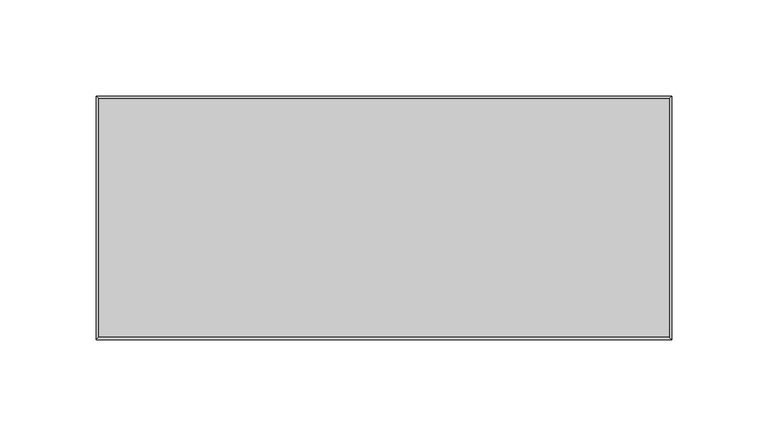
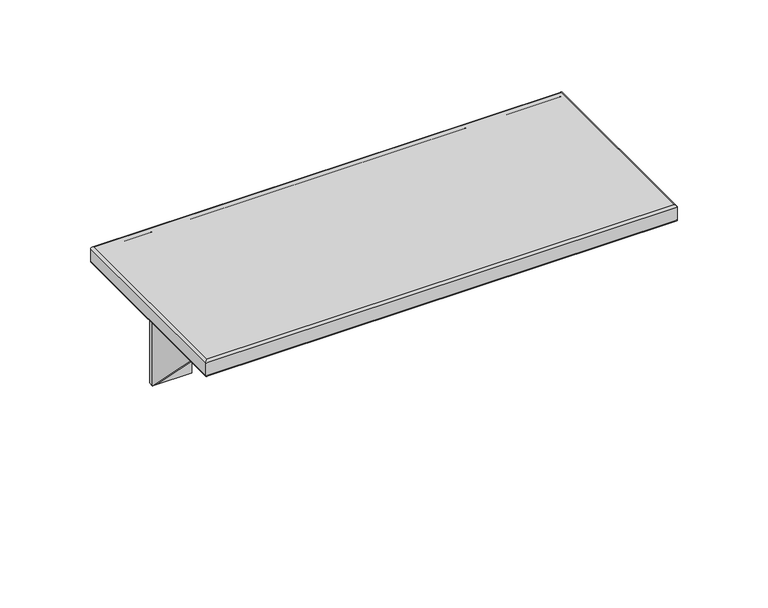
"""IFC4 building model written with IfcOpenShell, lengths in millimetres: proxy geometry, Shelf_Metlam_Utility : 300w x 127d x 105h (ML950_12)."""

from ifc_helpers import new_model, si_unit, frame, origin, place, context, project, spatial, polyline, circle_curve, ellipse_curve, outline, extrude, source, transform, mapped, element, save
from ifc_brep_helpers import plane_surface, cylinder_surface, revolved_surface, advanced_brep


def specialty_equipment_3d88ecde(model_context):
    return source(origin(), model_context, "Body", "SolidModel", [
        extrude(outline(polyline([(-3.0, 1195.0), (-102.0, 1295.0), (-3.0, 1295.0), (-3.0, 1195.0)])), frame((-112.5, 0.0, 0.0), z_axis=(1.0, 0.0, 0.0), x_axis=(0.0, 1.0, 0.0)), (0.0, 0.0, 1.0), 3.0),
        extrude(outline(polyline([(-3.0, 1195.0), (-102.0, 1295.0), (-3.0, 1295.0), (-3.0, 1195.0)])), frame((109.5, 0.0, 0.0), z_axis=(1.0, 0.0, 0.0), x_axis=(0.0, 1.0, 0.0)), (0.0, 0.0, 1.0), 3.0),
        advanced_brep(
        [(148.5, -125.5, 1300.0), (148.5, -1.5, 1300.0), (-148.5, -1.5, 1300.0), (-148.5, -125.5, 1300.0), (147.5, -2.5, 1298.0), (147.5, -124.5, 1298.0), (-147.5, -124.5, 1298.0), (-147.5, -2.5, 1298.0), (-112.5, -2.5, 1298.0), (-112.5, -103.0, 1298.0), (-87.5, -103.0, 1298.0), (-87.5, -2.5, 1298.0), (87.5, -2.5, 1298.0), (87.5, -103.0, 1298.0), (112.5, -103.0, 1298.0), (112.5, -2.5, 1298.0), (148.0, -2.0, 1290.0), (150.0, 0.0, 1290.0), (150.0, -127.0, 1290.0), (148.0, -125.0, 1290.0), (148.0, -125.0, 1297.5), (148.0, -2.0, 1297.5), (150.0, 0.0, 1298.5), (150.0, -127.0, 1298.5), (-150.0, -127.0, 1290.0), (-148.0, -125.0, 1290.0), (-148.0, -125.0, 1297.5), (-150.0, -127.0, 1298.5), (-150.0, 0.0, 1290.0), (-148.0, -2.0, 1290.0), (-148.0, -2.0, 1297.5), (-150.0, 0.0, 1298.5), (112.5, -2.0, 1290.0), (112.5, 0.0, 1290.0), (-112.5, 0.0, 1290.0), (-112.5, -2.0, 1290.0), (-87.5, 0.0, 1290.0), (87.5, 0.0, 1290.0), (87.5, -2.0, 1290.0), (-87.5, -2.0, 1290.0), (112.5, -2.0, 1297.5), (-112.5, -2.0, 1297.5), (-87.5, -2.0, 1297.5), (87.5, -2.0, 1297.5), (112.5, 0.0, 1195.0), (87.5, 0.0, 1195.0), (-87.5, 0.0, 1195.0), (-112.5, 0.0, 1195.0), (-103.5, 0.0, 1271.5), (-96.5, 0.0, 1271.5), (-103.5, 0.0, 1223.5), (-96.5, 0.0, 1223.5), (96.5, 0.0, 1271.5), (103.5, 0.0, 1271.5), (96.5, 0.0, 1223.5), (103.5, 0.0, 1223.5), (-112.5, -3.0, 1195.0), (-87.5, -3.0, 1195.0), (-87.5, -3.0, 1295.0), (-112.5, -3.0, 1295.0), (-103.5, -3.0, 1271.5), (-96.5, -3.0, 1271.5), (-103.5, -3.0, 1223.5), (-96.5, -3.0, 1223.5), (87.5, -3.0, 1195.0), (112.5, -3.0, 1195.0), (112.5, -3.0, 1295.0), (87.5, -3.0, 1295.0), (96.5, -3.0, 1271.5), (103.5, -3.0, 1271.5), (96.5, -3.0, 1223.5), (103.5, -3.0, 1223.5), (-87.5, -103.0, 1295.0), (-112.5, -103.0, 1295.0), (112.5, -103.0, 1295.0), (87.5, -103.0, 1295.0)],
        [
            (0, 1),
            (1, 2),
            (2, 3),
            (3, 0),
            (4, 5),
            (5, 6),
            (6, 7),
            (7, 8),
            (8, 9),
            (9, 10),
            (10, 11),
            (11, 12),
            (12, 13),
            (13, 14),
            (14, 15),
            (15, 4),
            (16, 17, ellipse_curve(frame((149.0, -1.0, 1290.0), z_axis=(0.7071067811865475, -0.7071067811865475, 0.0), x_axis=(0.7071067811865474, 0.7071067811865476, 0.0)), 1.4142136, 1.0)),
            (17, 18),
            (18, 19, ellipse_curve(frame((149.0, -126.0, 1290.0), z_axis=(0.7071067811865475, 0.7071067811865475, 0.0), x_axis=(-0.7071067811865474, 0.7071067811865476, 0.0)), 1.4142136, 1.0)),
            (19, 16),
            (19, 20),
            (20, 21),
            (21, 16),
            (20, 5, ellipse_curve(frame((147.5, -124.5, 1297.5), z_axis=(-0.7071067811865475, -0.7071067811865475, 0.0), x_axis=(0.7071067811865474, -0.7071067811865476, 0.0)), 0.7071068, 0.5)),
            (4, 21, ellipse_curve(frame((147.5, -2.5, 1297.5), z_axis=(-0.7071067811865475, 0.7071067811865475, 0.0), x_axis=(-0.7071067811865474, -0.7071067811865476, 0.0)), 0.7071068, 0.5)),
            (22, 1, ellipse_curve(frame((148.5, -1.5, 1298.5), z_axis=(0.7071067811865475, -0.7071067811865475, 0.0), x_axis=(0.7071067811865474, 0.7071067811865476, 0.0)), 2.1213203, 1.5)),
            (0, 23, ellipse_curve(frame((148.5, -125.5, 1298.5), z_axis=(0.7071067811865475, 0.7071067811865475, 0.0), x_axis=(-0.7071067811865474, 0.7071067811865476, 0.0)), 2.1213203, 1.5)),
            (23, 22),
            (17, 22),
            (23, 18),
            (18, 24),
            (24, 25, ellipse_curve(frame((-149.0, -126.0, 1290.0), z_axis=(0.7071067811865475, -0.7071067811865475, 0.0), x_axis=(0.7071067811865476, 0.7071067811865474, 0.0)), 1.4142136, 1.0)),
            (25, 19),
            (25, 26),
            (26, 20),
            (26, 6, ellipse_curve(frame((-147.5, -124.5, 1297.5), z_axis=(-0.7071067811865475, 0.7071067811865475, 0.0), x_axis=(-0.7071067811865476, -0.7071067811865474, 0.0)), 0.7071068, 0.5)),
            (3, 27, ellipse_curve(frame((-148.5, -125.5, 1298.5), z_axis=(0.7071067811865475, -0.7071067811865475, 0.0), x_axis=(0.7071067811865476, 0.7071067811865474, 0.0)), 2.1213203, 1.5)),
            (27, 23),
            (27, 24),
            (24, 28),
            (28, 29, ellipse_curve(frame((-149.0, -1.0, 1290.0), z_axis=(-0.7071067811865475, -0.7071067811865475, 0.0), x_axis=(0.7071067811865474, -0.7071067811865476, 0.0)), 1.4142136, 1.0)),
            (29, 25),
            (29, 30),
            (30, 26),
            (30, 7, ellipse_curve(frame((-147.5, -2.5, 1297.5), z_axis=(0.7071067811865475, 0.7071067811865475, 0.0), x_axis=(-0.7071067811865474, 0.7071067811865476, 0.0)), 0.7071068, 0.5)),
            (2, 31, ellipse_curve(frame((-148.5, -1.5, 1298.5), z_axis=(-0.7071067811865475, -0.7071067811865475, 0.0), x_axis=(0.7071067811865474, -0.7071067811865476, 0.0)), 2.1213203, 1.5)),
            (31, 27),
            (31, 28),
            (16, 32),
            (32, 33, circle_curve(frame((112.5, -1.0, 1290.0), z_axis=(1.0, 0.0, 0.0), x_axis=(0.0, 1.0, 0.0)), 1.0)),
            (33, 17),
            (28, 34),
            (34, 35, circle_curve(frame((-112.5, -1.0, 1290.0), z_axis=(-1.0, 0.0, 0.0), x_axis=(0.0, 1.0, 0.0)), 1.0)),
            (35, 29),
            (36, 37),
            (37, 38, circle_curve(frame((87.5, -1.0, 1290.0), z_axis=(-1.0, 0.0, 0.0), x_axis=(0.0, 1.0, 0.0)), 1.0)),
            (38, 39),
            (39, 36, circle_curve(frame((-87.5, -1.0, 1290.0), z_axis=(1.0, 0.0, 0.0), x_axis=(0.0, 1.0, 0.0)), 1.0)),
            (21, 40),
            (40, 32),
            (35, 41),
            (41, 30),
            (42, 39),
            (38, 43),
            (43, 42),
            (11, 42, circle_curve(frame((-87.5, -2.5, 1297.5), z_axis=(-1.0, 0.0, 0.0), x_axis=(0.0, 1.0, 0.0)), 0.5)),
            (43, 12, circle_curve(frame((87.5, -2.5, 1297.5), z_axis=(1.0, 0.0, 0.0), x_axis=(0.0, 1.0, 0.0)), 0.5)),
            (15, 40, circle_curve(frame((112.5, -2.5, 1297.5), z_axis=(-1.0, 0.0, 0.0), x_axis=(0.0, 1.0, 0.0)), 0.5)),
            (41, 8, circle_curve(frame((-112.5, -2.5, 1297.5), z_axis=(1.0, 0.0, 0.0), x_axis=(0.0, 1.0, 0.0)), 0.5)),
            (22, 31),
            (33, 44),
            (44, 45),
            (45, 37),
            (36, 46),
            (46, 47),
            (47, 34),
            (48, 49, circle_curve(frame((-100.0, 0.0, 1271.5), z_axis=(0.0, -1.0, 0.0), x_axis=(1.0, 0.0, 0.0)), 3.5)),
            (49, 48, circle_curve(frame((-100.0, 0.0, 1271.5), z_axis=(0.0, -1.0, 0.0), x_axis=(1.0, 0.0, 0.0)), 3.5)),
            (50, 51, circle_curve(frame((-100.0, 0.0, 1223.5), z_axis=(0.0, -1.0, 0.0), x_axis=(1.0, 0.0, 0.0)), 3.5)),
            (51, 50, circle_curve(frame((-100.0, 0.0, 1223.5), z_axis=(0.0, -1.0, 0.0), x_axis=(1.0, 0.0, 0.0)), 3.5)),
            (52, 53, circle_curve(frame((100.0, 0.0, 1271.5), z_axis=(0.0, -1.0, 0.0), x_axis=(1.0, 0.0, 0.0)), 3.5)),
            (53, 52, circle_curve(frame((100.0, 0.0, 1271.5), z_axis=(0.0, -1.0, 0.0), x_axis=(1.0, 0.0, 0.0)), 3.5)),
            (54, 55, circle_curve(frame((100.0, 0.0, 1223.5), z_axis=(0.0, -1.0, 0.0), x_axis=(1.0, 0.0, 0.0)), 3.5)),
            (55, 54, circle_curve(frame((100.0, 0.0, 1223.5), z_axis=(0.0, -1.0, 0.0), x_axis=(1.0, 0.0, 0.0)), 3.5)),
            (56, 57),
            (57, 58),
            (58, 59),
            (59, 56),
            (60, 61, circle_curve(frame((-100.0, -3.0, 1271.5), z_axis=(0.0, 1.0, 0.0), x_axis=(1.0, 0.0, 0.0)), 3.5)),
            (61, 60, circle_curve(frame((-100.0, -3.0, 1271.5), z_axis=(0.0, 1.0, 0.0), x_axis=(1.0, 0.0, 0.0)), 3.5)),
            (62, 63, circle_curve(frame((-100.0, -3.0, 1223.5), z_axis=(0.0, 1.0, 0.0), x_axis=(1.0, 0.0, 0.0)), 3.5)),
            (63, 62, circle_curve(frame((-100.0, -3.0, 1223.5), z_axis=(0.0, 1.0, 0.0), x_axis=(1.0, 0.0, 0.0)), 3.5)),
            (64, 65),
            (65, 66),
            (66, 67),
            (67, 64),
            (68, 69, circle_curve(frame((100.0, -3.0, 1271.5), z_axis=(0.0, 1.0, 0.0), x_axis=(1.0, 0.0, 0.0)), 3.5)),
            (69, 68, circle_curve(frame((100.0, -3.0, 1271.5), z_axis=(0.0, 1.0, 0.0), x_axis=(1.0, 0.0, 0.0)), 3.5)),
            (70, 71, circle_curve(frame((100.0, -3.0, 1223.5), z_axis=(0.0, 1.0, 0.0), x_axis=(1.0, 0.0, 0.0)), 3.5)),
            (71, 70, circle_curve(frame((100.0, -3.0, 1223.5), z_axis=(0.0, 1.0, 0.0), x_axis=(1.0, 0.0, 0.0)), 3.5)),
            (57, 46),
            (10, 72),
            (72, 58),
            (47, 56),
            (59, 73),
            (73, 9),
            (64, 45),
            (44, 65),
            (14, 74),
            (74, 66),
            (67, 75),
            (75, 13),
            (60, 48),
            (49, 61),
            (62, 50),
            (51, 63),
            (68, 52),
            (53, 69),
            (70, 54),
            (55, 71),
            (73, 72),
            (75, 74),
        ],
        [
            plane_surface(frame((-141.5355828, -8.4644172, 1300.0), z_axis=(0.0, 0.0, 1.0), x_axis=(-1.0, 0.0, 0.0))),
            plane_surface(frame((-141.5355828, -8.4644172, 1298.0), z_axis=(0.0, 0.0, -1.0), x_axis=(1.0, 0.0, 0.0))),
            cylinder_surface(frame((149.0, 0.0, 1290.0), z_axis=(0.0, 1.0, 0.0), x_axis=(1.0, 0.0, 0.0)), 1.0),
            plane_surface(frame((148.0, -2.0, 1290.0), z_axis=(-1.0, 0.0, 0.0), x_axis=(0.0, -1.0, 0.0))),
            revolved_surface(polyline([(148.0, -125.00000001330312, 1297.5), (148.0, -1.99999998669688, 1297.5)]), (147.5, 0.0, 1297.5), (0.0, -1.0, 0.0)),
            cylinder_surface(frame((148.5, 0.0, 1298.5), z_axis=(0.0, 1.0, 0.0), x_axis=(1.0, 0.0, 0.0)), 1.5),
            plane_surface(frame((150.0, 0.0, 1298.5), z_axis=(1.0, 0.0, 0.0), x_axis=(0.0, -1.0, 0.0))),
            cylinder_surface(frame((150.0, -126.0, 1290.0), z_axis=(1.0, 0.0, 0.0), x_axis=(0.0, -1.0, 0.0)), 1.0),
            plane_surface(frame((148.0, -125.0, 1290.0), z_axis=(0.0, 1.0, 0.0), x_axis=(-1.0, 0.0, 0.0))),
            revolved_surface(polyline([(-148.00000001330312, -125.0, 1297.5), (148.00000001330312, -125.0, 1297.5)]), (150.0, -124.5, 1297.5), (-1.0, 0.0, 0.0)),
            cylinder_surface(frame((150.0, -125.5, 1298.5), z_axis=(1.0, 0.0, 0.0), x_axis=(0.0, -1.0, 0.0)), 1.5),
            plane_surface(frame((150.0, -127.0, 1298.5), z_axis=(0.0, -1.0, 0.0), x_axis=(-1.0, 0.0, 0.0))),
            cylinder_surface(frame((-149.0, -127.0, 1290.0), z_axis=(0.0, -1.0, 0.0), x_axis=(-1.0, 0.0, 0.0)), 1.0),
            plane_surface(frame((-148.0, -125.0, 1290.0), z_axis=(1.0, 0.0, 0.0), x_axis=(0.0, 1.0, 0.0))),
            revolved_surface(polyline([(-148.0, -1.9999999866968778, 1297.5), (-148.0, -125.00000001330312, 1297.5)]), (-147.5, -127.0, 1297.5), (0.0, 1.0, 0.0)),
            cylinder_surface(frame((-148.5, -127.0, 1298.5), z_axis=(0.0, -1.0, 0.0), x_axis=(-1.0, 0.0, 0.0)), 1.5),
            plane_surface(frame((-150.0, -127.0, 1298.5), z_axis=(-1.0, 0.0, 0.0), x_axis=(0.0, 1.0, 0.0))),
            cylinder_surface(frame((-150.0, -1.0, 1290.0), z_axis=(-1.0, 0.0, 0.0), x_axis=(0.0, 1.0, 0.0)), 1.0),
            plane_surface(frame((-148.0, -2.0, 1290.0), z_axis=(0.0, -1.0, 0.0), x_axis=(1.0, 0.0, 0.0))),
            revolved_surface(polyline([(87.5, -2.0, 1297.5), (-87.5, -2.0, 1297.5)]), (-150.0, -2.5, 1297.5), (1.0, 0.0, 0.0)),
            revolved_surface(polyline([(148.00000001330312, -2.0, 1297.5), (112.5, -2.0, 1297.5)]), (-150.0, -2.5, 1297.5), (1.0, 0.0, 0.0)),
            revolved_surface(polyline([(-112.5, -2.0, 1297.5), (-148.00000001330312, -2.0, 1297.5)]), (-150.0, -2.5, 1297.5), (1.0, 0.0, 0.0)),
            cylinder_surface(frame((-150.0, -1.5, 1298.5), z_axis=(-1.0, 0.0, 0.0), x_axis=(0.0, 1.0, 0.0)), 1.5),
            plane_surface(frame((-150.0, 0.0, 1298.5), z_axis=(0.0, 1.0, 0.0), x_axis=(1.0, 0.0, 0.0))),
            plane_surface(frame((-87.5, -3.0, 1195.0), z_axis=(0.0, -1.0, 0.0), x_axis=(0.0, 0.0, 1.0))),
            plane_surface(frame((-87.5, -3.0, 1195.0), z_axis=(1.0, 0.0, 0.0), x_axis=(0.0, 1.0, 0.0))),
            plane_surface(frame((-112.5, -3.0, 1298.0), z_axis=(-1.0, 0.0, 0.0), x_axis=(0.0, 1.0, 0.0))),
            plane_surface(frame((-112.5, -3.0, 1195.0), z_axis=(0.0, 0.0, -1.0), x_axis=(0.0, 1.0, 0.0))),
            plane_surface(frame((87.5, -3.0, 1195.0), z_axis=(0.0, 0.0, -1.0), x_axis=(0.0, 1.0, 0.0))),
            plane_surface(frame((112.5, -3.0, 1195.0), z_axis=(1.0, 0.0, 0.0), x_axis=(0.0, 1.0, 0.0))),
            plane_surface(frame((87.5, -3.0, 1298.0), z_axis=(-1.0, 0.0, 0.0), x_axis=(0.0, 1.0, 0.0))),
            revolved_surface(polyline([(-96.5, 0.0, 1271.5), (-96.5, -3.0, 1271.5)]), (-100.0, 0.0, 1271.5), (0.0, 1.0, 0.0)),
            revolved_surface(polyline([(-96.5, 0.0, 1223.5), (-96.5, -3.0, 1223.5)]), (-100.0, 0.0, 1223.5), (0.0, 1.0, 0.0)),
            revolved_surface(polyline([(103.5, 0.0, 1271.5), (103.5, -3.0, 1271.5)]), (100.0, 0.0, 1271.5), (0.0, 1.0, 0.0)),
            revolved_surface(polyline([(103.5, 0.0, 1223.5), (103.5, -3.0, 1223.5)]), (100.0, 0.0, 1223.5), (0.0, 1.0, 0.0)),
            plane_surface(frame((-112.5, -103.0, 1298.0), z_axis=(0.0, -1.0, 0.0), x_axis=(-1.0, 0.0, 0.0))),
            plane_surface(frame((-112.5, -103.0, 1295.0), z_axis=(0.0, 0.0, -1.0), x_axis=(0.0, 1.0, 0.0))),
            plane_surface(frame((87.5, -103.0, 1295.0), z_axis=(0.0, 0.0, -1.0), x_axis=(0.0, 1.0, 0.0))),
        ],
        [
            (0, [[1, 2, 3, 4]]),
            (1, [[5, 6, 7, 8, 9, 10, 11, 12, 13, 14, 15, 16]]),
            (2, [[17, 18, 19, 20]]),
            (3, [[-20, 21, 22, 23]]),
            (4, [[-22, 24, -5, 25]]),
            (5, [[26, -1, 27, 28]]),
            (6, [[-18, 29, -28, 30]]),
            (7, [[-19, 31, 32, 33]]),
            (8, [[-21, -33, 34, 35]]),
            (9, [[-24, -35, 36, -6]]),
            (10, [[-27, -4, 37, 38]]),
            (11, [[-30, -38, 39, -31]]),
            (12, [[-32, 40, 41, 42]]),
            (13, [[-34, -42, 43, 44]]),
            (14, [[-36, -44, 45, -7]]),
            (15, [[-37, -3, 46, 47]]),
            (16, [[-39, -47, 48, -40]]),
            (17, [[-17, 49, 50, 51]]),
            (17, [[-41, 52, 53, 54]]),
            (17, [[55, 56, 57, 58]]),
            (18, [[-23, 59, 60, -49]]),
            (18, [[-43, -54, 61, 62]]),
            (18, [[63, -57, 64, 65]]),
            (19, [[-12, 66, -65, 67]]),
            (20, [[-25, -16, 68, -59]]),
            (21, [[-45, -62, 69, -8]]),
            (22, [[-26, 70, -46, -2]]),
            (23, [[-29, -51, 71, 72, 73, -55, 74, 75, 76, -52, -48, -70], [77, 78], [79, 80], [81, 82], [83, 84]]),
            (24, [[85, 86, 87, 88], [89, 90], [91, 92]]),
            (24, [[93, 94, 95, 96], [97, 98], [99, 100]]),
            (25, [[101, -74, -58, -63, -66, -11, 102, 103, -86]]),
            (26, [[104, -88, 105, 106, -9, -69, -61, -53, -76]]),
            (27, [[-85, -104, -75, -101]]),
            (28, [[-93, 107, -72, 108]]),
            (29, [[-108, -71, -50, -60, -68, -15, 109, 110, -94]]),
            (30, [[-107, -96, 111, 112, -13, -67, -64, -56, -73]]),
            (31, [[-89, 113, -78, 114]]),
            (31, [[-90, -114, -77, -113]]),
            (32, [[-91, 115, -80, 116]]),
            (32, [[-92, -116, -79, -115]]),
            (33, [[-97, 117, -82, 118]]),
            (33, [[-98, -118, -81, -117]]),
            (34, [[-99, 119, -84, 120]]),
            (34, [[-100, -120, -83, -119]]),
            (35, [[-106, 121, -102, -10]]),
            (35, [[-112, 122, -109, -14]]),
            (36, [[-121, -105, -87, -103]]),
            (37, [[-122, -111, -95, -110]]),
        ],
    ),
    ])


if __name__ == "__main__":
    model = new_model("IFC4")
    model_context = context("Model", 3, world=origin())
    ifc_project = project(units=[si_unit("LENGTHUNIT", "METRE", prefix="MILLI")], contexts=[model_context])
    site = spatial("IfcSite", under=ifc_project)
    building = spatial("IfcBuilding", under=site)
    placement = place(None, origin())
    specialty_equipment_shape = specialty_equipment_3d88ecde(model_context)
    element("IfcBuildingElementProxy", 1, Name="Shelf_Metlam_Utility : 300w x 127d x 105h (ML950_12)", ObjectType="Shelf_Metlam_Utility : 300w x 127d x 105h (ML950_12)", at=placement, inside=building, context=model_context, shape_type="MappedRepresentation", body=[
        mapped(specialty_equipment_shape, transform((0.0, 0.0, 0.0), x_axis=(1.0, 0.0, 0.0), y_axis=(0.0, 1.0, 0.0), z_axis=(0.0, 0.0, 1.0))),
    ])
    save(model, "model.ifc")
